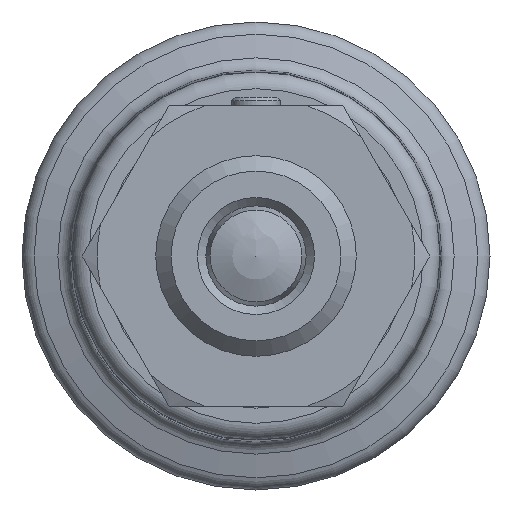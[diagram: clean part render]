
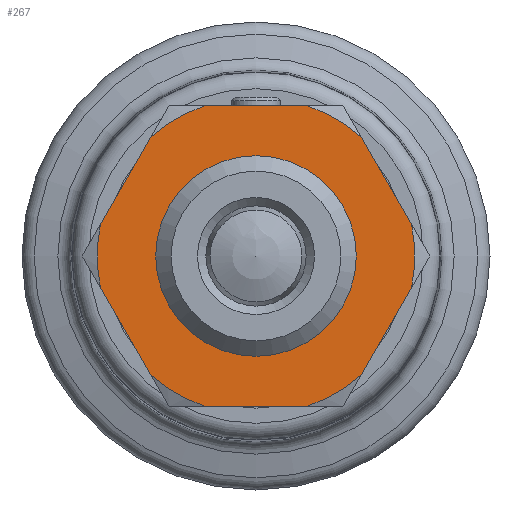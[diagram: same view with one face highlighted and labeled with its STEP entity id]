
A CAD part, left-side view. The second image highlights one B-rep face of the part: STEP entity #267.
In plain terms, the highlighted planar face has unit normal (-1, 0, 0) as drawn and (1, 0, 0) by its records, which use the part's own axes.
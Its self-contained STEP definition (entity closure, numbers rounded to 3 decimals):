
#267 = ADVANCED_FACE( '', ( #459, #460 ), #461, .F. );
#459 = FACE_BOUND( '', #671, .T. );
#460 = FACE_OUTER_BOUND( '', #672, .T. );
#461 = PLANE( '', #673 );
#671 = EDGE_LOOP( '', ( #1067 ) );
#672 = EDGE_LOOP( '', ( #1068, #1069, #1070, #1071, #1072, #1073, #1074, #1075, #1076, #1077, #1078, #1079 ) );
#673 = AXIS2_PLACEMENT_3D( '', #1080, #1081, #1082 );
#1067 = ORIENTED_EDGE( '', *, *, #1289, .F. );
#1068 = ORIENTED_EDGE( '', *, *, #1290, .T. );
#1069 = ORIENTED_EDGE( '', *, *, #1291, .T. );
#1070 = ORIENTED_EDGE( '', *, *, #1260, .T. );
#1071 = ORIENTED_EDGE( '', *, *, #1292, .T. );
#1072 = ORIENTED_EDGE( '', *, *, #1253, .T. );
#1073 = ORIENTED_EDGE( '', *, *, #1293, .T. );
#1074 = ORIENTED_EDGE( '', *, *, #1283, .T. );
#1075 = ORIENTED_EDGE( '', *, *, #1268, .T. );
#1076 = ORIENTED_EDGE( '', *, *, #1278, .T. );
#1077 = ORIENTED_EDGE( '', *, *, #1294, .T. );
#1078 = ORIENTED_EDGE( '', *, *, #1271, .T. );
#1079 = ORIENTED_EDGE( '', *, *, #1295, .T. );
#1080 = CARTESIAN_POINT( '', ( 6., 9.5, 0. ) );
#1081 = DIRECTION( '', ( -1., 0., 0. ) );
#1082 = DIRECTION( '', ( 0., 0., 1. ) );
#1253 = EDGE_CURVE( '', #1436, #1434, #1437, .T. );
#1260 = EDGE_CURVE( '', #1449, #1447, #1450, .T. );
#1268 = EDGE_CURVE( '', #1460, #1463, #1465, .T. );
#1271 = EDGE_CURVE( '', #1471, #1469, #1472, .T. );
#1278 = EDGE_CURVE( '', #1463, #1482, #1484, .T. );
#1283 = EDGE_CURVE( '', #1492, #1460, #1493, .T. );
#1289 = EDGE_CURVE( '', #1501, #1501, #1502, .T. );
#1290 = EDGE_CURVE( '', #1503, #1504, #1505, .T. );
#1291 = EDGE_CURVE( '', #1504, #1449, #1506, .T. );
#1292 = EDGE_CURVE( '', #1447, #1436, #1507, .T. );
#1293 = EDGE_CURVE( '', #1434, #1492, #1508, .T. );
#1294 = EDGE_CURVE( '', #1482, #1471, #1509, .T. );
#1295 = EDGE_CURVE( '', #1469, #1503, #1510, .T. );
#1434 = VERTEX_POINT( '', #1965 );
#1436 = VERTEX_POINT( '', #1970 );
#1437 = LINE( '', #1971, #1972 );
#1447 = VERTEX_POINT( '', #1993 );
#1449 = VERTEX_POINT( '', #1998 );
#1450 = LINE( '', #1999, #2000 );
#1460 = VERTEX_POINT( '', #2021 );
#1463 = VERTEX_POINT( '', #2027 );
#1465 = CIRCLE( '', #2032, 9.5 );
#1469 = VERTEX_POINT( '', #2037 );
#1471 = VERTEX_POINT( '', #2042 );
#1472 = LINE( '', #2043, #2044 );
#1482 = VERTEX_POINT( '', #2065 );
#1484 = LINE( '', #2070, #2071 );
#1492 = VERTEX_POINT( '', #2087 );
#1493 = LINE( '', #2088, #2089 );
#1501 = VERTEX_POINT( '', #2107 );
#1502 = CIRCLE( '', #2108, 6. );
#1503 = VERTEX_POINT( '', #2109 );
#1504 = VERTEX_POINT( '', #2110 );
#1505 = LINE( '', #2111, #2112 );
#1506 = CIRCLE( '', #2113, 9.5 );
#1507 = CIRCLE( '', #2114, 9.5 );
#1508 = CIRCLE( '', #2115, 9.5 );
#1509 = CIRCLE( '', #2116, 9.5 );
#1510 = CIRCLE( '', #2117, 9.5 );
#1965 = CARTESIAN_POINT( '', ( 6., -3.041, 9. ) );
#1970 = CARTESIAN_POINT( '', ( 6., 3.041, 9. ) );
#1971 = CARTESIAN_POINT( '', ( 6., 9.5, 9. ) );
#1972 = VECTOR( '', #2304, 1000. );
#1993 = CARTESIAN_POINT( '', ( 6., 6.274, 7.134 ) );
#1998 = CARTESIAN_POINT( '', ( 6., 9.315, 1.866 ) );
#1999 = CARTESIAN_POINT( '', ( 6., 10.169, 0.386 ) );
#2000 = VECTOR( '', #2307, 1000. );
#2021 = CARTESIAN_POINT( '', ( 6., -9.315, 1.866 ) );
#2027 = CARTESIAN_POINT( '', ( 6., -9.315, -1.866 ) );
#2032 = AXIS2_PLACEMENT_3D( '', #2310, #2311, #2312 );
#2037 = CARTESIAN_POINT( '', ( 6., 3.041, -9. ) );
#2042 = CARTESIAN_POINT( '', ( 6., -3.041, -9. ) );
#2043 = CARTESIAN_POINT( '', ( 6., 9.5, -9. ) );
#2044 = VECTOR( '', #2314, 1000. );
#2065 = CARTESIAN_POINT( '', ( 6., -6.274, -7.134 ) );
#2070 = CARTESIAN_POINT( '', ( 6., -5.419, -8.614 ) );
#2071 = VECTOR( '', #2317, 1000. );
#2087 = CARTESIAN_POINT( '', ( 6., -6.274, 7.134 ) );
#2088 = CARTESIAN_POINT( '', ( 6., -5.419, 8.614 ) );
#2089 = VECTOR( '', #2320, 1000. );
#2107 = CARTESIAN_POINT( '', ( 6., 0., -6. ) );
#2108 = AXIS2_PLACEMENT_3D( '', #2325, #2326, #2327 );
#2109 = CARTESIAN_POINT( '', ( 6., 6.274, -7.134 ) );
#2110 = CARTESIAN_POINT( '', ( 6., 9.315, -1.866 ) );
#2111 = CARTESIAN_POINT( '', ( 6., 10.169, -0.386 ) );
#2112 = VECTOR( '', #2328, 1000. );
#2113 = AXIS2_PLACEMENT_3D( '', #2329, #2330, #2331 );
#2114 = AXIS2_PLACEMENT_3D( '', #2332, #2333, #2334 );
#2115 = AXIS2_PLACEMENT_3D( '', #2335, #2336, #2337 );
#2116 = AXIS2_PLACEMENT_3D( '', #2338, #2339, #2340 );
#2117 = AXIS2_PLACEMENT_3D( '', #2341, #2342, #2343 );
#2304 = DIRECTION( '', ( 0., -1., 0. ) );
#2307 = DIRECTION( '', ( 0., -0.5, 0.866 ) );
#2310 = CARTESIAN_POINT( '', ( 6., 0., 0. ) );
#2311 = DIRECTION( '', ( 1., 0., 0. ) );
#2312 = DIRECTION( '', ( 0., 0., -1. ) );
#2314 = DIRECTION( '', ( 0., 1., 0. ) );
#2317 = DIRECTION( '', ( 0., 0.5, -0.866 ) );
#2320 = DIRECTION( '', ( 0., -0.5, -0.866 ) );
#2325 = CARTESIAN_POINT( '', ( 6., 0., 0. ) );
#2326 = DIRECTION( '', ( 1., 0., 0. ) );
#2327 = DIRECTION( '', ( 0., 0., -1. ) );
#2328 = DIRECTION( '', ( 0., 0.5, 0.866 ) );
#2329 = CARTESIAN_POINT( '', ( 6., 0., 0. ) );
#2330 = DIRECTION( '', ( 1., 0., 0. ) );
#2331 = DIRECTION( '', ( 0., 0., -1. ) );
#2332 = CARTESIAN_POINT( '', ( 6., 0., 0. ) );
#2333 = DIRECTION( '', ( 1., 0., 0. ) );
#2334 = DIRECTION( '', ( 0., 0., -1. ) );
#2335 = CARTESIAN_POINT( '', ( 6., 0., 0. ) );
#2336 = DIRECTION( '', ( 1., 0., 0. ) );
#2337 = DIRECTION( '', ( 0., 0., -1. ) );
#2338 = CARTESIAN_POINT( '', ( 6., 0., 0. ) );
#2339 = DIRECTION( '', ( 1., 0., 0. ) );
#2340 = DIRECTION( '', ( 0., 0., -1. ) );
#2341 = CARTESIAN_POINT( '', ( 6., 0., 0. ) );
#2342 = DIRECTION( '', ( 1., 0., 0. ) );
#2343 = DIRECTION( '', ( 0., 0., -1. ) );
